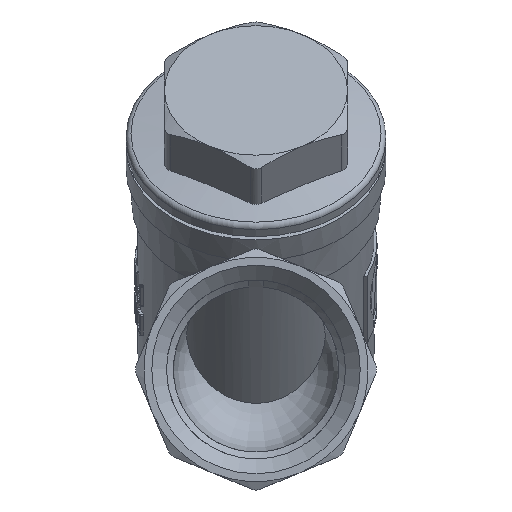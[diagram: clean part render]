
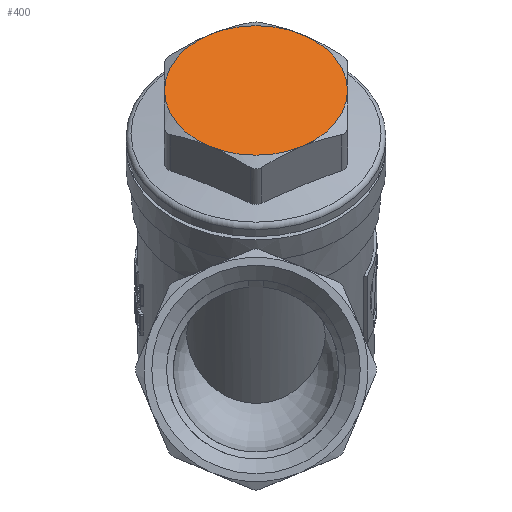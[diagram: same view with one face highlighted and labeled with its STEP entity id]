
A CAD part, front view. The second image highlights one B-rep face of the part: STEP entity #400.
In plain terms, the highlighted planar face has unit normal (0, -0.707, 0.707).
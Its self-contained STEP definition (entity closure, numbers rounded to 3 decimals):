
#400=ADVANCED_FACE('',(#2765),#2767,.T.);
#2765=FACE_BOUND('',#2766,.T.);
#2766=EDGE_LOOP('',(#5045,#5046,#5047,#5048));
#2767=PLANE('',#2768);
#2768=AXIS2_PLACEMENT_3D('',#2769,#2770,#2771);
#2769=CARTESIAN_POINT('',(0.,-32.235,47.235));
#2770=DIRECTION('',(0.,-0.707,0.707));
#2771=DIRECTION('',(1.,0.,0.));
#5045=ORIENTED_EDGE('',*,*,#5989,.T.);
#5046=ORIENTED_EDGE('',*,*,#5988,.T.);
#5047=ORIENTED_EDGE('',*,*,#5987,.T.);
#5048=ORIENTED_EDGE('',*,*,#5990,.T.);
#5987=EDGE_CURVE('',#7515,#7552,#7558,.F.);
#5988=EDGE_CURVE('',#7536,#7515,#7559,.F.);
#5989=EDGE_CURVE('',#7544,#7536,#7560,.F.);
#5990=EDGE_CURVE('',#7552,#7544,#7561,.F.);
#7515=VERTEX_POINT('',#18454);
#7536=VERTEX_POINT('',#18723);
#7544=VERTEX_POINT('',#18835);
#7552=VERTEX_POINT('',#18927);
#7558=CIRCLE('',#19014,15.5);
#7559=CIRCLE('',#19018,15.5);
#7560=CIRCLE('',#19022,15.5);
#7561=CIRCLE('',#19026,15.5);
#18454=CARTESIAN_POINT('',(-15.5,-32.235,47.235));
#18723=CARTESIAN_POINT('',(15.5,-32.235,47.235));
#18835=CARTESIAN_POINT('',(7.75,-41.727,37.743));
#18927=CARTESIAN_POINT('',(-7.75,-41.727,37.743));
#19014=AXIS2_PLACEMENT_3D('',#19015,#19016,#19017);
#19015=CARTESIAN_POINT('',(0.,-32.235,47.235));
#19016=DIRECTION('',(0.,0.707,-0.707));
#19017=DIRECTION('',(-0.5,-0.612,-0.612));
#19018=AXIS2_PLACEMENT_3D('',#19019,#19020,#19021);
#19019=CARTESIAN_POINT('',(0.,-32.235,47.235));
#19020=DIRECTION('',(0.,0.707,-0.707));
#19021=DIRECTION('',(-1.,0.,0.));
#19022=AXIS2_PLACEMENT_3D('',#19023,#19024,#19025);
#19023=CARTESIAN_POINT('',(0.,-32.235,47.235));
#19024=DIRECTION('',(0.,0.707,-0.707));
#19025=DIRECTION('',(1.,0.,0.));
#19026=AXIS2_PLACEMENT_3D('',#19027,#19028,#19029);
#19027=CARTESIAN_POINT('',(0.,-32.235,47.235));
#19028=DIRECTION('',(0.,0.707,-0.707));
#19029=DIRECTION('',(0.5,-0.612,-0.612));
